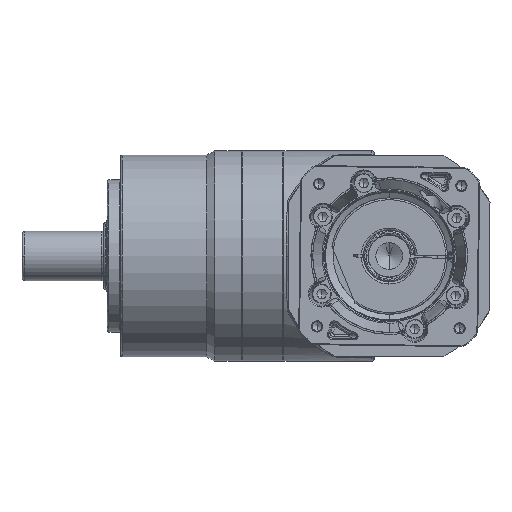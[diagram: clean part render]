
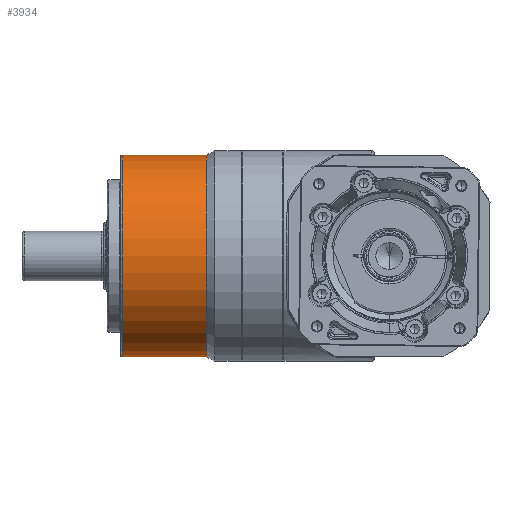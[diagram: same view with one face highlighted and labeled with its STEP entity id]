
A CAD part, front view. The second image highlights one B-rep face of the part: STEP entity #3934.
In plain terms, the highlighted cylindrical face has radius 45 mm (diameter 90 mm), a partial arc.
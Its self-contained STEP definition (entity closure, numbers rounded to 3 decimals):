
#1085 = EDGE_CURVE ( 'NONE', #47464, #9326, #26038, .T. ) ;
#2876 = LINE ( 'NONE', #6595, #54616 ) ;
#3246 = EDGE_CURVE ( 'NONE', #5074, #9326, #45251, .T. ) ;
#3382 = CARTESIAN_POINT ( 'NONE',  ( -53.2, -39.253, 117.99 ) ) ;
#3934 = ADVANCED_FACE ( 'NONE', ( #29822 ), #30105, .T. ) ;
#4226 = DIRECTION ( 'NONE',  ( 0., 0., -1. ) ) ;
#5074 = VERTEX_POINT ( 'NONE', #49529 ) ;
#6595 = CARTESIAN_POINT ( 'NONE',  ( -15.5, -39.253, 72.99 ) ) ;
#7386 = CARTESIAN_POINT ( 'NONE',  ( -15.5, -39.253, 117.99 ) ) ;
#7675 = DIRECTION ( 'NONE',  ( -1., 0., 0. ) ) ;
#7917 = CARTESIAN_POINT ( 'NONE',  ( -53.2, -39.253, 162.99 ) ) ;
#9326 = VERTEX_POINT ( 'NONE', #7917 ) ;
#14415 = ORIENTED_EDGE ( 'NONE', *, *, #54614, .F. ) ;
#15037 = CARTESIAN_POINT ( 'NONE',  ( -15.5, -39.253, 117.99 ) ) ;
#16881 = DIRECTION ( 'NONE',  ( 0., 0., 1. ) ) ;
#18970 = VECTOR ( 'NONE', #22520, 1000. ) ;
#20002 = EDGE_LOOP ( 'NONE', ( #14415, #33939, #51699, #39524 ) ) ;
#22520 = DIRECTION ( 'NONE',  ( -1., 0., 0. ) ) ;
#24606 = AXIS2_PLACEMENT_3D ( 'NONE', #15037, #33917, #45823 ) ;
#26038 = CIRCLE ( 'NONE', #49953, 45. ) ;
#26361 = DIRECTION ( 'NONE',  ( -1., 0., 0. ) ) ;
#29822 = FACE_OUTER_BOUND ( 'NONE', #20002, .T. ) ;
#30105 = CYLINDRICAL_SURFACE ( 'NONE', #43843, 45. ) ;
#32572 = VERTEX_POINT ( 'NONE', #43702 ) ;
#33917 = DIRECTION ( 'NONE',  ( 1., 0., 0. ) ) ;
#33939 = ORIENTED_EDGE ( 'NONE', *, *, #40899, .F. ) ;
#38237 = DIRECTION ( 'NONE',  ( -1., 0., 0. ) ) ;
#39524 = ORIENTED_EDGE ( 'NONE', *, *, #1085, .F. ) ;
#40899 = EDGE_CURVE ( 'NONE', #5074, #32572, #49417, .T. ) ;
#43702 = CARTESIAN_POINT ( 'NONE',  ( -15.5, -39.253, 72.99 ) ) ;
#43843 = AXIS2_PLACEMENT_3D ( 'NONE', #7386, #7675, #16881 ) ;
#45251 = LINE ( 'NONE', #49273, #18970 ) ;
#45823 = DIRECTION ( 'NONE',  ( 0., 0., 1. ) ) ;
#47464 = VERTEX_POINT ( 'NONE', #51439 ) ;
#49273 = CARTESIAN_POINT ( 'NONE',  ( -15.5, -39.253, 162.99 ) ) ;
#49417 = CIRCLE ( 'NONE', #24606, 45. ) ;
#49529 = CARTESIAN_POINT ( 'NONE',  ( -15.5, -39.253, 162.99 ) ) ;
#49953 = AXIS2_PLACEMENT_3D ( 'NONE', #3382, #26361, #4226 ) ;
#51439 = CARTESIAN_POINT ( 'NONE',  ( -53.2, -39.253, 72.99 ) ) ;
#51699 = ORIENTED_EDGE ( 'NONE', *, *, #3246, .T. ) ;
#54614 = EDGE_CURVE ( 'NONE', #32572, #47464, #2876, .T. ) ;
#54616 = VECTOR ( 'NONE', #38237, 1000. ) ;
